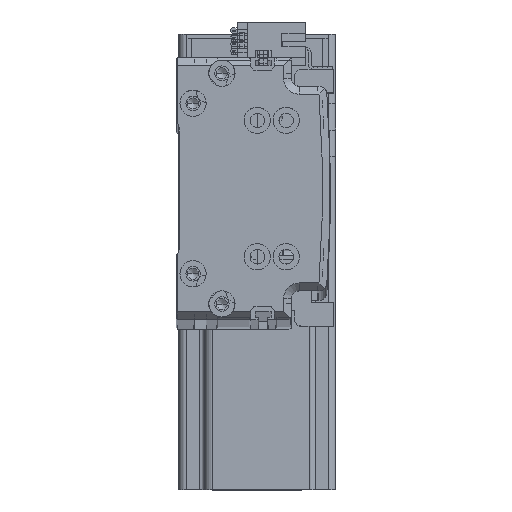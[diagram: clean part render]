
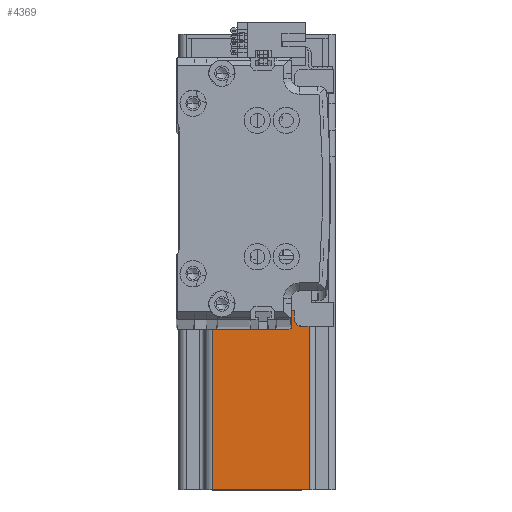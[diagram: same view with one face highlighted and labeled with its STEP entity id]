
A CAD part, top view. The second image highlights one B-rep face of the part: STEP entity #4369.
In plain terms, the highlighted planar face has unit normal (0, 0, 1) as drawn and (-1, 0, 0) by its records, which use the part's own axes.
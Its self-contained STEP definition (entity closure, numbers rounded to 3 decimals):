
#2275 = EDGE_CURVE ( 'NONE', #53404, #38915, #26032, .T. ) ;
#4369 = ADVANCED_FACE ( 'NONE', ( #67255 ), #22677, .F. ) ;
#4718 = ORIENTED_EDGE ( 'NONE', *, *, #31007, .T. ) ;
#7758 = CARTESIAN_POINT ( 'NONE',  ( -30., -27., 137. ) ) ;
#7796 = CARTESIAN_POINT ( 'NONE',  ( -30., -27., 0. ) ) ;
#8371 = ORIENTED_EDGE ( 'NONE', *, *, #2275, .F. ) ;
#8663 = CARTESIAN_POINT ( 'NONE',  ( -30., -30., 10. ) ) ;
#10258 = CARTESIAN_POINT ( 'NONE',  ( -30., -30., 0. ) ) ;
#10661 = CARTESIAN_POINT ( 'NONE',  ( -30., 27., 137. ) ) ;
#10751 = LINE ( 'NONE', #10258, #24611 ) ;
#11391 = ORIENTED_EDGE ( 'NONE', *, *, #21784, .F. ) ;
#11606 = AXIS2_PLACEMENT_3D ( 'NONE', #54163, #22911, #59407 ) ;
#15196 = DIRECTION ( 'NONE',  ( 0., 0., 1. ) ) ;
#15205 = ORIENTED_EDGE ( 'NONE', *, *, #17252, .F. ) ;
#16526 = VECTOR ( 'NONE', #66483, 1000. ) ;
#17252 = EDGE_CURVE ( 'NONE', #49156, #39803, #29335, .T. ) ;
#18333 = VECTOR ( 'NONE', #44244, 1000. ) ;
#21784 = EDGE_CURVE ( 'NONE', #38915, #50281, #58150, .T. ) ;
#22320 = CARTESIAN_POINT ( 'NONE',  ( -30., 27., 0. ) ) ;
#22677 = PLANE ( 'NONE',  #11606 ) ;
#22911 = DIRECTION ( 'NONE',  ( 1., 0., 0. ) ) ;
#23667 = EDGE_LOOP ( 'NONE', ( #15205, #4718, #11391, #8371, #28676, #59260, #55926, #58407 ) ) ;
#23974 = DIRECTION ( 'NONE',  ( 0., 1., 0. ) ) ;
#24345 = CARTESIAN_POINT ( 'NONE',  ( -30., 27., 10. ) ) ;
#24611 = VECTOR ( 'NONE', #41517, 1000. ) ;
#26032 = LINE ( 'NONE', #30755, #64327 ) ;
#28676 = ORIENTED_EDGE ( 'NONE', *, *, #40468, .T. ) ;
#29329 = VECTOR ( 'NONE', #23974, 1000. ) ;
#29335 = LINE ( 'NONE', #8663, #53843 ) ;
#29997 = CARTESIAN_POINT ( 'NONE',  ( -30., -17., 137. ) ) ;
#30755 = CARTESIAN_POINT ( 'NONE',  ( -30., 20., 10. ) ) ;
#31007 = EDGE_CURVE ( 'NONE', #49156, #50281, #44287, .T. ) ;
#32650 = CARTESIAN_POINT ( 'NONE',  ( -30., 20., 10. ) ) ;
#34297 = DIRECTION ( 'NONE',  ( 0., -1., 0. ) ) ;
#34512 = CARTESIAN_POINT ( 'NONE',  ( -30., -30., 137. ) ) ;
#36631 = DIRECTION ( 'NONE',  ( 0., 0., -1. ) ) ;
#38915 = VERTEX_POINT ( 'NONE', #41941 ) ;
#39803 = VERTEX_POINT ( 'NONE', #47379 ) ;
#40468 = EDGE_CURVE ( 'NONE', #53404, #52146, #43210, .T. ) ;
#40823 = VERTEX_POINT ( 'NONE', #22320 ) ;
#41517 = DIRECTION ( 'NONE',  ( 0., -1., 0. ) ) ;
#41941 = CARTESIAN_POINT ( 'NONE',  ( -30., 20., 137. ) ) ;
#43210 = LINE ( 'NONE', #60455, #29329 ) ;
#43674 = EDGE_CURVE ( 'NONE', #52146, #40823, #58188, .T. ) ;
#44244 = DIRECTION ( 'NONE',  ( 0., 0., 1. ) ) ;
#44264 = VECTOR ( 'NONE', #34297, 1000. ) ;
#44287 = LINE ( 'NONE', #29997, #16526 ) ;
#45419 = DIRECTION ( 'NONE',  ( 0., -1., 0. ) ) ;
#46162 = LINE ( 'NONE', #7758, #18333 ) ;
#47379 = CARTESIAN_POINT ( 'NONE',  ( -30., -27., 10. ) ) ;
#49156 = VERTEX_POINT ( 'NONE', #64213 ) ;
#50281 = VERTEX_POINT ( 'NONE', #53202 ) ;
#50361 = EDGE_CURVE ( 'NONE', #53020, #39803, #46162, .T. ) ;
#52146 = VERTEX_POINT ( 'NONE', #24345 ) ;
#53020 = VERTEX_POINT ( 'NONE', #7796 ) ;
#53202 = CARTESIAN_POINT ( 'NONE',  ( -30., -17., 137. ) ) ;
#53404 = VERTEX_POINT ( 'NONE', #32650 ) ;
#53843 = VECTOR ( 'NONE', #45419, 1000. ) ;
#54163 = CARTESIAN_POINT ( 'NONE',  ( -30., -30., 137. ) ) ;
#54954 = EDGE_CURVE ( 'NONE', #40823, #53020, #10751, .T. ) ;
#55926 = ORIENTED_EDGE ( 'NONE', *, *, #54954, .T. ) ;
#56534 = VECTOR ( 'NONE', #36631, 1000. ) ;
#58150 = LINE ( 'NONE', #34512, #44264 ) ;
#58188 = LINE ( 'NONE', #10661, #56534 ) ;
#58407 = ORIENTED_EDGE ( 'NONE', *, *, #50361, .T. ) ;
#59260 = ORIENTED_EDGE ( 'NONE', *, *, #43674, .T. ) ;
#59407 = DIRECTION ( 'NONE',  ( 0., 0., -1. ) ) ;
#60455 = CARTESIAN_POINT ( 'NONE',  ( -30., 30., 10. ) ) ;
#64213 = CARTESIAN_POINT ( 'NONE',  ( -30., -17., 10. ) ) ;
#64327 = VECTOR ( 'NONE', #15196, 1000. ) ;
#66483 = DIRECTION ( 'NONE',  ( 0., 0., 1. ) ) ;
#67255 = FACE_OUTER_BOUND ( 'NONE', #23667, .T. ) ;
